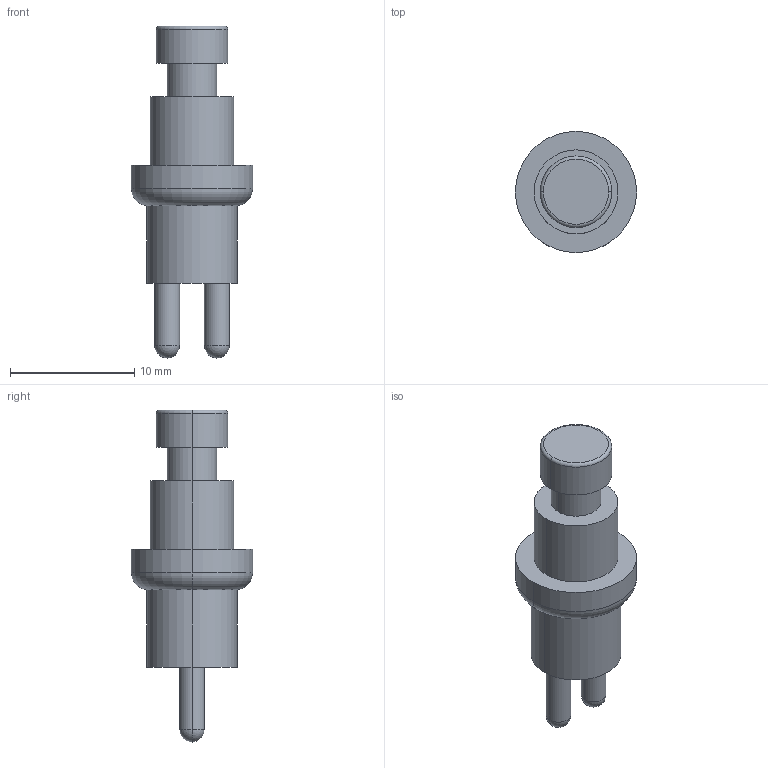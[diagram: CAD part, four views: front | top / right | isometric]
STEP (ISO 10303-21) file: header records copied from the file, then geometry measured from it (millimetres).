
FILE_DESCRIPTION (( 'STEP AP214' ), '1' );
FILE_NAME ('Green_Switch.STEP', '2015-02-27T01:41:25', ( '' ), ( '' ), '', '', '' );
FILE_SCHEMA (( '' ));
Length unit declared in the file: millimetre
Products named in the file (1): Green_Switch
Bounding box: 9.75 x 9.75 x 26.7 mm (x, y, z)
Volume: 833 mm3; surface area: 676.6 mm2
Topology: 1 solids, 1 shells, 28 faces, 62 edges, 38 vertices
Faces by surface type: cylinder 14, plane 6, sphere 4, torus 4
Entity records: 863 total; most frequent: DIRECTION 152, CARTESIAN_POINT 117, ORIENTED_EDGE 108, AXIS2_PLACEMENT_3D 69, EDGE_CURVE 54, CIRCLE 40, EDGE_LOOP 34, VERTEX_POINT 34
